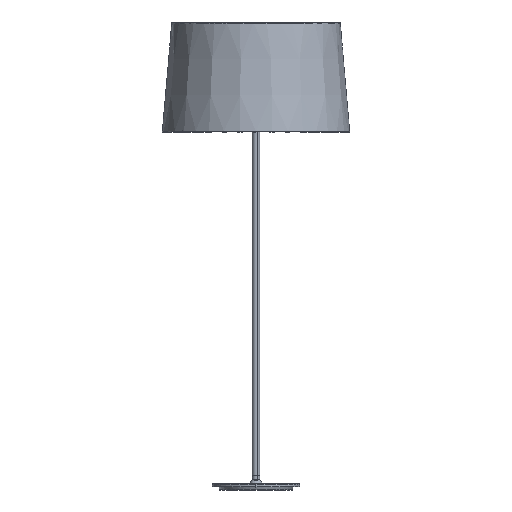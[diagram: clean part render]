
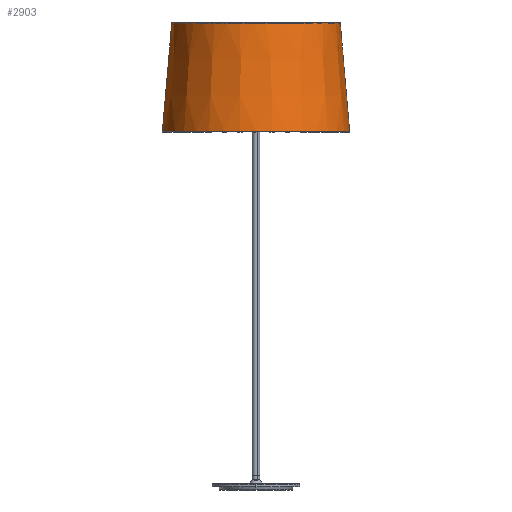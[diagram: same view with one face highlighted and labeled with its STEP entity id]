
A CAD part, front view. The second image highlights one B-rep face of the part: STEP entity #2903.
In plain terms, the highlighted conical face has half-angle 4.974 degrees and reference radius 317.305 mm.
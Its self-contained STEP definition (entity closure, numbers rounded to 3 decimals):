
#115=CONICAL_SURFACE('',#3238,317.306,0.087);
#227=CIRCLE('',#3239,320.529);
#540=FACE_OUTER_BOUND('',#760,.T.);
#760=EDGE_LOOP('',(#2466,#2467,#2468,#2469));
#908=B_SPLINE_CURVE_WITH_KNOTS('',3,(#7880,#7881,#7882,#7883,#7884,#7885,
#7886,#7887,#7888,#7889,#7890,#7891,#7892,#7893,#7894,#7895,#7896,#7897),
 .UNSPECIFIED.,.F.,.F.,(4,1,1,1,1,1,1,1,1,1,1,1,1,1,1,4),(0.,0.067,
0.133,0.2,0.267,0.333,0.4,0.467,
0.533,0.6,0.667,0.733,0.8,0.867,
0.933,1.),.UNSPECIFIED.);
#1060=LINE('',#7900,#1196);
#1061=LINE('',#7903,#1197);
#1196=VECTOR('',#3953,304.8);
#1197=VECTOR('',#3956,304.8);
#1390=VERTEX_POINT('',#7545);
#1391=VERTEX_POINT('',#7703);
#1392=VERTEX_POINT('',#7899);
#1393=VERTEX_POINT('',#7901);
#1753=EDGE_CURVE('',#1390,#1391,#908,.T.);
#1754=EDGE_CURVE('',#1392,#1390,#1060,.T.);
#1756=EDGE_CURVE('',#1391,#1393,#1061,.T.);
#1757=EDGE_CURVE('',#1392,#1393,#227,.T.);
#2466=ORIENTED_EDGE('',*,*,#1753,.T.);
#2467=ORIENTED_EDGE('',*,*,#1756,.T.);
#2468=ORIENTED_EDGE('',*,*,#1757,.F.);
#2469=ORIENTED_EDGE('',*,*,#1754,.T.);
#2903=ADVANCED_FACE('',(#540),#115,.T.);
#3238=AXIS2_PLACEMENT_3D('',#7904,#3957,#3958);
#3239=AXIS2_PLACEMENT_3D('',#7905,#3959,#3960);
#3953=DIRECTION('',(0.087,0.,0.996));
#3956=DIRECTION('',(0.087,0.,-0.996));
#3957=DIRECTION('center_axis',(0.,0.,
-1.));
#3958=DIRECTION('ref_axis',(0.809,0.588,0.));
#3959=DIRECTION('center_axis',(0.,0.,
-1.));
#3960=DIRECTION('ref_axis',(0.809,0.588,0.));
#7545=CARTESIAN_POINT('',(-288.294,0.,372.836));
#7703=CARTESIAN_POINT('',(288.294,0.,372.836));
#7880=CARTESIAN_POINT('Ctrl Pts',(-288.294,0.,
372.836));
#7881=CARTESIAN_POINT('Ctrl Pts',(-288.327,20.133,372.836));
#7882=CARTESIAN_POINT('Ctrl Pts',(-284.048,60.376,372.836));
#7883=CARTESIAN_POINT('Ctrl Pts',(-265.306,118.121,372.836));
#7884=CARTESIAN_POINT('Ctrl Pts',(-234.945,170.698,372.836));
#7885=CARTESIAN_POINT('Ctrl Pts',(-194.322,215.816,372.836));
#7886=CARTESIAN_POINT('Ctrl Pts',(-145.205,251.502,372.836));
#7887=CARTESIAN_POINT('Ctrl Pts',(-89.742,276.196,372.836));
#7888=CARTESIAN_POINT('Ctrl Pts',(-30.356,288.819,372.836));
#7889=CARTESIAN_POINT('Ctrl Pts',(30.356,288.819,372.836));
#7890=CARTESIAN_POINT('Ctrl Pts',(89.742,276.196,372.836));
#7891=CARTESIAN_POINT('Ctrl Pts',(145.205,251.502,372.836));
#7892=CARTESIAN_POINT('Ctrl Pts',(194.322,215.816,372.836));
#7893=CARTESIAN_POINT('Ctrl Pts',(234.945,170.698,372.836));
#7894=CARTESIAN_POINT('Ctrl Pts',(265.306,118.121,372.836));
#7895=CARTESIAN_POINT('Ctrl Pts',(284.048,60.376,372.836));
#7896=CARTESIAN_POINT('Ctrl Pts',(288.327,20.133,372.836));
#7897=CARTESIAN_POINT('Ctrl Pts',(288.294,0.,
372.836));
#7899=CARTESIAN_POINT('',(-320.529,0.,2.473));
#7900=CARTESIAN_POINT('',(-320.529,0.,2.473));
#7901=CARTESIAN_POINT('',(320.529,0.,2.473));
#7903=CARTESIAN_POINT('',(288.294,0.,372.836));
#7904=CARTESIAN_POINT('Origin',(0.,0.,
39.509));
#7905=CARTESIAN_POINT('Origin',(0.,0.,
2.473));
